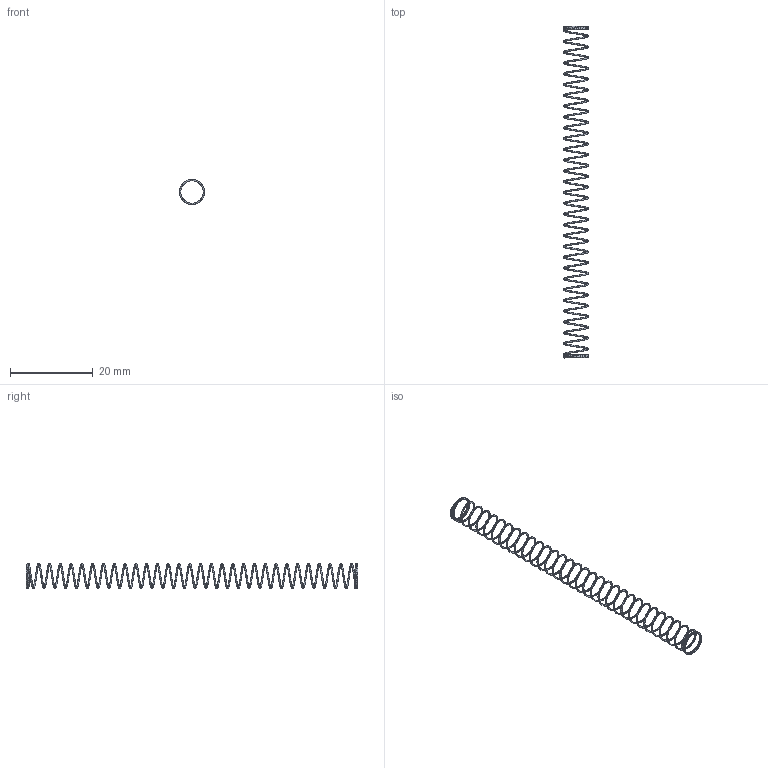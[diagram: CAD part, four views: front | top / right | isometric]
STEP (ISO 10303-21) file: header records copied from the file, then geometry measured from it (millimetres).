
FILE_DESCRIPTION((''),'2;1');
FILE_NAME('Y_JG_WJ_A00222-02','2024-02-21T20:55:20',('qinghui.yi'),(''),'CREO PARAMETRIC BY PTC INC, 2019164','CREO PARAMETRIC BY PTC INC, 2019164','');
FILE_SCHEMA(('CONFIG_CONTROL_DESIGN','SHAPE_APPEARANCE_LAYERS_GROUPS'));
Length unit declared in the file: millimetre
Products named in the file (1): Y_JG_WJ_A00222-02
Bounding box: 6 x 80 x 6 mm (x, y, z)
Volume: 42.8 mm3; surface area: 576.5 mm2
Topology: 1 solids, 1 shells, 26 faces, 53 edges, 32 vertices
Faces by surface type: bspline 24, plane 2
Entity records: 8327 total; most frequent: CARTESIAN_POINT 7588, COLOUR_RGB 312, ORIENTED_EDGE 100, B_SPLINE_CURVE_WITH_KNOTS 50, EDGE_CURVE 50, VERTEX_POINT 26, EDGE_LOOP 26, FACE_OUTER_BOUND 26
